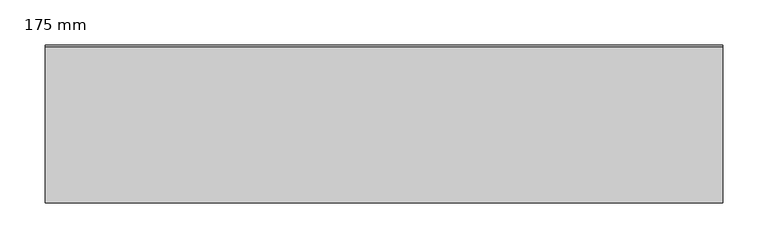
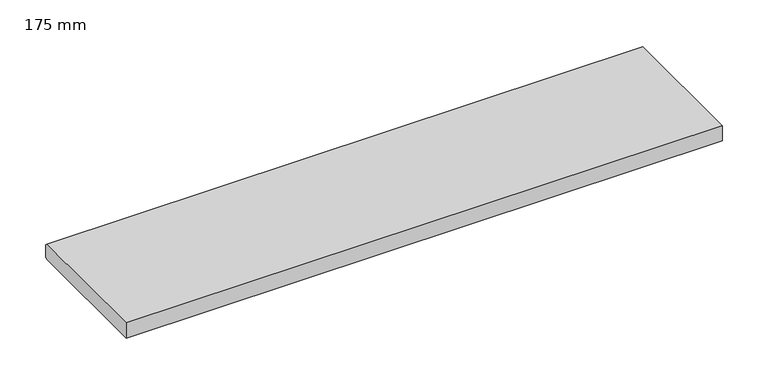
"""IFC4 building model written with IfcOpenShell, lengths in millimetres: proxy geometry, 400_35_NS_vensterbank : 175 mm."""

from ifc_helpers import new_model, si_unit, frame, origin, place, context, project, spatial, polyline, outline, extrude, source, transform, mapped, element, save


def proxy_175_mm_1eb8ddfd(model_context):
    return source(origin(), model_context, "Body", "SweptSolid", [
        extrude(outline(polyline([(0.0, 0.0), (0.0, 20.0), (173.0, 20.0), (175.0, 18.0), (175.0, 2.0), (173.0, 0.0), (0.0, 0.0)])), frame((-375.0, 0.0, 0.0), z_axis=(1.0, 0.0, 0.0), x_axis=(0.0, 1.0, 0.0)), (0.0, 0.0, 1.0), 750.0),
    ])


if __name__ == "__main__":
    model = new_model("IFC4")
    model_context = context("Model", 3, world=origin())
    ifc_project = project(units=[si_unit("LENGTHUNIT", "METRE", prefix="MILLI")], contexts=[model_context])
    site = spatial("IfcSite", under=ifc_project)
    building = spatial("IfcBuilding", under=site)
    placement = place(None, origin())
    proxy_175_mm_shape = proxy_175_mm_1eb8ddfd(model_context)
    element("IfcBuildingElementProxy", 1, Name="400_35_NS_vensterbank : 175 mm", ObjectType="400_35_NS_vensterbank : 175 mm", at=placement, inside=building, context=model_context, shape_type="MappedRepresentation", body=[
        mapped(proxy_175_mm_shape, transform((0.0, 0.0, 0.0), x_axis=(1.0, 0.0, 0.0), y_axis=(0.0, 1.0, 0.0), z_axis=(0.0, 0.0, 1.0))),
    ])
    save(model, "model.ifc")
